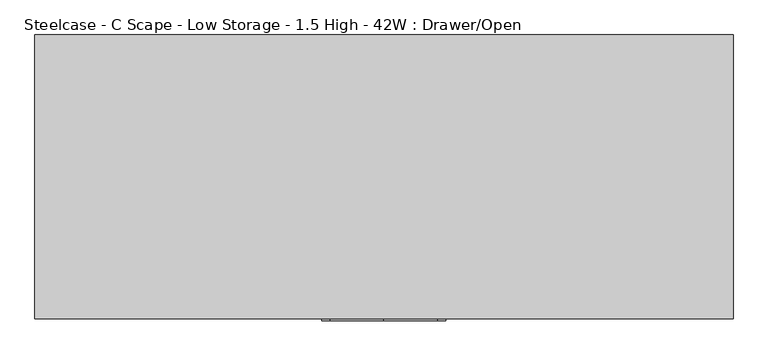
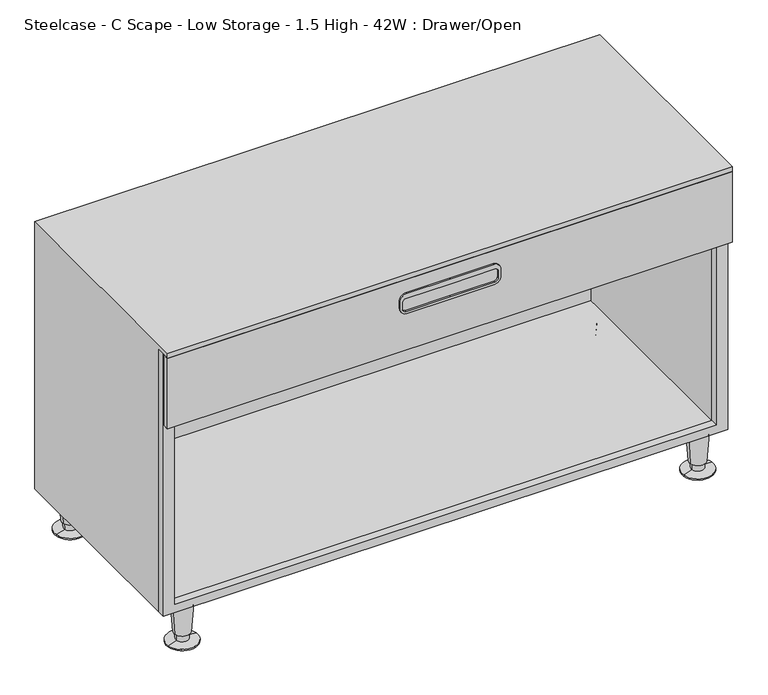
"""IFC4 building model written with IfcOpenShell, lengths in millimetres: furniture geometry, Steelcase - C Scape - Low Storage - 1.5 High - 42W : Drawer/Open."""

from ifc_helpers import new_model, si_unit, point, frame, frame_2d, origin, place, context, project, spatial, polyline, circle_curve, trimmed, segment, composite_curve, outline, extrude, faceted_brep, source, transform, mapped, element, save
from ifc_brep_helpers import plane_surface, cylinder_surface, revolved_surface, advanced_brep


def steelcase_c_scape_low_storage_1_5_high_42w_drawer_open_6d166814(model_context):
    return source(origin(), model_context, "Body", "SolidModel", [
        extrude(outline(polyline([(599.44, 532.2710512), (599.44, 0.0), (76.1999955, 0.0), (76.1999955, 1065.53), (599.44, 1065.53), (599.44, 532.2710512)]), holes=[polyline([(92.7100024, 1043.5617285), (92.7100024, 21.3382324), (582.93, 21.3382324), (582.93, 1043.5617285), (92.7100024, 1043.5617285)])]), frame((0.0, -419.3484735, 0.0), z_axis=(0.0, 1.0, 0.0), x_axis=(0.0, 0.0, 1.0)), (0.0, 0.0, 1.0), 14.9862946),
        extrude(outline(composite_curve([segment(trimmed(circle_curve(frame_2d((560.7050073, 450.2147442)), 12.7), [point((573.4050073, 450.2147442))], [point((560.7050073, 437.5147442))], False, "CARTESIAN"), True, "CONTINUOUS"), segment(polyline([(560.7050073, 437.5147442), (546.1000363, 437.5147442)]), True, "CONTINUOUS"), segment(trimmed(circle_curve(frame_2d((546.1000363, 450.2147442)), 12.7), [point((546.1000363, 437.5147442))], [point((533.4000363, 450.2147442))], False, "CARTESIAN"), True, "CONTINUOUS"), segment(polyline([(533.4000363, 450.2147442), (533.4000363, 532.4475), (533.4000363, 614.6802558)]), True, "CONTINUOUS"), segment(trimmed(circle_curve(frame_2d((546.1000363, 614.6802558)), 12.7), [point((533.4000363, 614.6802558))], [point((546.1000363, 627.3802558))], False, "CARTESIAN"), True, "CONTINUOUS"), segment(polyline([(546.1000363, 627.3802558), (560.7050073, 627.3802558)]), True, "CONTINUOUS"), segment(trimmed(circle_curve(frame_2d((560.7050073, 614.6802558)), 12.7), [point((560.7050073, 627.3802558))], [point((573.4050073, 614.6802558))], False, "CARTESIAN"), True, "CONTINUOUS"), segment(polyline([(573.4050073, 614.6802558), (573.4050073, 532.4475), (573.4050073, 450.2147442)]), True, "CONTINUOUS")], self_intersect=False), holes=[composite_curve([segment(trimmed(circle_curve(frame_2d((557.2760257, 448.6923565)), 6.35), [point((557.2760257, 442.3423565))], [point((563.6260257, 448.6923565))], True, "CARTESIAN"), True, "CONTINUOUS"), segment(polyline([(563.6260257, 448.6923565), (563.6260257, 532.4475), (563.6260257, 616.2026435)]), True, "CONTINUOUS"), segment(trimmed(circle_curve(frame_2d((557.2760257, 616.2026435)), 6.35), [point((563.6260257, 616.2026435))], [point((557.2760257, 622.5526435))], True, "CARTESIAN"), True, "CONTINUOUS"), segment(polyline([(557.2760257, 622.5526435), (544.5760136, 622.5526435)]), True, "CONTINUOUS"), segment(trimmed(circle_curve(frame_2d((544.5760136, 616.2026435)), 6.35), [point((544.5760136, 622.5526435))], [point((538.2260136, 616.2026435))], True, "CARTESIAN"), True, "CONTINUOUS"), segment(polyline([(538.2260136, 616.2026435), (538.2260136, 532.4475), (538.2260136, 448.6923565)]), True, "CONTINUOUS"), segment(trimmed(circle_curve(frame_2d((544.5760136, 448.6923565)), 6.35), [point((538.2260136, 448.6923565))], [point((544.5760136, 442.3423565))], True, "CARTESIAN"), True, "CONTINUOUS"), segment(polyline([(544.5760136, 442.3423565), (557.2760257, 442.3423565)]), True, "CONTINUOUS")], self_intersect=False)]), frame((0.0, -436.118, 0.0), z_axis=(0.0, 1.0, 0.0), x_axis=(0.0, 0.0, 1.0)), (0.0, 0.0, 1.0), 3.048),
        advanced_brep(
        [(1038.2598695, -31.5218435, 76.2), (1000.5981305, -37.2840847, 76.2), (1019.429, -34.4029641, 76.2), (1034.3095214, -32.1262463, 19.05), (1004.5484786, -36.6796819, 19.05), (1031.8799345, -32.4979728, 19.05), (1006.9780655, -36.3079555, 19.05), (1031.191165, -32.6033544, 5.7545598), (1007.666835, -36.2025738, 5.7545598), (1048.5400485, -29.9489775, 2.5119506), (990.3179515, -38.8569507, 2.5119506), (1048.5400485, -29.9489775, 0.0), (990.3179515, -38.8569507, 0.0), (1019.429, -34.4029641, 0.0)],
        [
            (0, 1, circle_curve(frame((1019.429, -34.4029641, 76.2), z_axis=(0.0, 0.0, 1.0), x_axis=(0.0, -1.0, 0.0)), 19.05)),
            (1, 2),
            (2, 0),
            (1, 0, circle_curve(frame((1019.429, -34.4029641, 76.2), z_axis=(0.0, 0.0, 1.0), x_axis=(0.0, -1.0, 0.0)), 19.05)),
            (3, 4, circle_curve(frame((1019.429, -34.4029641, 19.05), z_axis=(0.0, 0.0, 1.0), x_axis=(0.0, -1.0, 0.0)), 15.0536827)),
            (4, 1),
            (0, 3),
            (4, 3, circle_curve(frame((1019.429, -34.4029641, 19.05), z_axis=(0.0, 0.0, 1.0), x_axis=(0.0, -1.0, 0.0)), 15.0536827)),
            (5, 6, circle_curve(frame((1019.429, -34.4029641, 19.05), z_axis=(0.0, 0.0, 1.0), x_axis=(0.0, -1.0, 0.0)), 12.5958232)),
            (6, 4),
            (3, 5),
            (6, 5, circle_curve(frame((1019.429, -34.4029641, 19.05), z_axis=(0.0, 0.0, 1.0), x_axis=(0.0, -1.0, 0.0)), 12.5958232)),
            (7, 8, circle_curve(frame((1019.429, -34.4029641, 5.7545598), z_axis=(0.0, 0.0, 1.0), x_axis=(0.0, -1.0, 0.0)), 11.8990387)),
            (8, 6),
            (5, 7),
            (8, 7, circle_curve(frame((1019.429, -34.4029641, 5.7545598), z_axis=(0.0, 0.0, 1.0), x_axis=(0.0, -1.0, 0.0)), 11.8990387)),
            (9, 10, circle_curve(frame((1019.429, -34.4029641, 2.5119506), z_axis=(0.0, 0.0, 1.0), x_axis=(0.0, -1.0, 0.0)), 29.4498071)),
            (10, 8),
            (7, 9),
            (10, 9, circle_curve(frame((1019.429, -34.4029641, 2.5119506), z_axis=(0.0, 0.0, 1.0), x_axis=(0.0, -1.0, 0.0)), 29.4498071)),
            (11, 12, circle_curve(frame((1019.429, -34.4029641, 0.0), z_axis=(0.0, 0.0, 1.0), x_axis=(0.0, -1.0, 0.0)), 29.4498071)),
            (12, 10),
            (9, 11),
            (12, 11, circle_curve(frame((1019.429, -34.4029641, 0.0), z_axis=(0.0, 0.0, 1.0), x_axis=(0.0, -1.0, 0.0)), 29.4498071)),
            (13, 12),
            (11, 13),
        ],
        [
            plane_surface(frame((1019.429, -34.4029641, 76.2), z_axis=(0.0, 0.0, 1.0), x_axis=(0.0, -1.0, 0.0))),
            revolved_surface(polyline([(1019.429, -53.4529641, 76.2), (1019.429, -49.4566468, 19.05)]), (1019.429, -34.4029641, 25.4), (0.0, 0.0, -1.0)),
            plane_surface(frame((1019.429, -34.4029641, 19.05), z_axis=(0.0, 0.0, -1.0), x_axis=(0.0, -1.0, 0.0))),
            revolved_surface(polyline([(1019.429, -46.9987873, 19.05), (1019.429, -46.3020028, 5.7545598)]), (1019.429, -34.4029641, 25.4), (0.0, 0.0, -1.0)),
            revolved_surface(polyline([(1019.429, -46.3020028, 5.7545598), (1019.429, -63.8527712, 2.5119506)]), (1019.429, -34.4029641, 25.4), (0.0, 0.0, -1.0)),
            cylinder_surface(frame((1019.429, -34.4029641, 25.4), z_axis=(0.0, 0.0, -1.0), x_axis=(0.0, -1.0, 0.0)), 29.4498071),
            plane_surface(frame((1019.429, -34.4029641, 0.0), z_axis=(0.0, 0.0, -1.0), x_axis=(0.0, -1.0, 0.0))),
        ],
        [
            (0, [[1, 2, 3]]),
            (0, [[4, -3, -2]]),
            (1, [[5, 6, -1, 7]]),
            (1, [[8, -7, -4, -6]]),
            (2, [[9, 10, -5, 11]]),
            (2, [[12, -11, -8, -10]]),
            (3, [[13, 14, -9, 15]]),
            (3, [[16, -15, -12, -14]]),
            (4, [[17, 18, -13, 19]]),
            (4, [[20, -19, -16, -18]]),
            (5, [[21, 22, -17, 23]]),
            (5, [[24, -23, -20, -22]]),
            (6, [[25, -21, 26]]),
            (6, [[-26, -24, -25]]),
        ],
    ),
        advanced_brep(
        [(1038.2598695, -397.1702762, 76.2), (1000.5981305, -402.9325174, 76.2), (1019.429, -400.0513968, 76.2), (1034.3095214, -397.774679, 19.05), (1004.5484786, -402.3281146, 19.05), (1031.8799345, -398.1464055, 19.05), (1006.9780655, -401.9563882, 19.05), (1031.191165, -398.2517871, 5.7545598), (1007.666835, -401.8510065, 5.7545598), (1048.5400485, -395.5974102, 2.5119506), (990.3179515, -404.5053834, 2.5119506), (1048.5400485, -395.5974102, 0.0), (990.3179515, -404.5053834, 0.0), (1019.429, -400.0513968, 0.0)],
        [
            (0, 1, circle_curve(frame((1019.429, -400.0513968, 76.2), z_axis=(0.0, 0.0, 1.0), x_axis=(0.0, -1.0, 0.0)), 19.05)),
            (1, 2),
            (2, 0),
            (1, 0, circle_curve(frame((1019.429, -400.0513968, 76.2), z_axis=(0.0, 0.0, 1.0), x_axis=(0.0, -1.0, 0.0)), 19.05)),
            (3, 4, circle_curve(frame((1019.429, -400.0513968, 19.05), z_axis=(0.0, 0.0, 1.0), x_axis=(0.0, -1.0, 0.0)), 15.0536827)),
            (4, 1),
            (0, 3),
            (4, 3, circle_curve(frame((1019.429, -400.0513968, 19.05), z_axis=(0.0, 0.0, 1.0), x_axis=(0.0, -1.0, 0.0)), 15.0536827)),
            (5, 6, circle_curve(frame((1019.429, -400.0513968, 19.05), z_axis=(0.0, 0.0, 1.0), x_axis=(0.0, -1.0, 0.0)), 12.5958232)),
            (6, 4),
            (3, 5),
            (6, 5, circle_curve(frame((1019.429, -400.0513968, 19.05), z_axis=(0.0, 0.0, 1.0), x_axis=(0.0, -1.0, 0.0)), 12.5958232)),
            (7, 8, circle_curve(frame((1019.429, -400.0513968, 5.7545598), z_axis=(0.0, 0.0, 1.0), x_axis=(0.0, -1.0, 0.0)), 11.8990387)),
            (8, 6),
            (5, 7),
            (8, 7, circle_curve(frame((1019.429, -400.0513968, 5.7545598), z_axis=(0.0, 0.0, 1.0), x_axis=(0.0, -1.0, 0.0)), 11.8990387)),
            (9, 10, circle_curve(frame((1019.429, -400.0513968, 2.5119506), z_axis=(0.0, 0.0, 1.0), x_axis=(0.0, -1.0, 0.0)), 29.4498071)),
            (10, 8),
            (7, 9),
            (10, 9, circle_curve(frame((1019.429, -400.0513968, 2.5119506), z_axis=(0.0, 0.0, 1.0), x_axis=(0.0, -1.0, 0.0)), 29.4498071)),
            (11, 12, circle_curve(frame((1019.429, -400.0513968, 0.0), z_axis=(0.0, 0.0, 1.0), x_axis=(0.0, -1.0, 0.0)), 29.4498071)),
            (12, 10),
            (9, 11),
            (12, 11, circle_curve(frame((1019.429, -400.0513968, 0.0), z_axis=(0.0, 0.0, 1.0), x_axis=(0.0, -1.0, 0.0)), 29.4498071)),
            (13, 12),
            (11, 13),
        ],
        [
            plane_surface(frame((1019.429, -400.0513968, 76.2), z_axis=(0.0, 0.0, 1.0), x_axis=(0.0, -1.0, 0.0))),
            revolved_surface(polyline([(1019.429, -419.1013968, 76.2), (1019.429, -415.1050795, 19.05)]), (1019.429, -400.0513968, 25.4), (0.0, 0.0, -1.0)),
            plane_surface(frame((1019.429, -400.0513968, 19.05), z_axis=(0.0, 0.0, -1.0), x_axis=(0.0, -1.0, 0.0))),
            revolved_surface(polyline([(1019.429, -412.64722, 19.05), (1019.429, -411.9504355, 5.7545598)]), (1019.429, -400.0513968, 25.4), (0.0, 0.0, -1.0)),
            revolved_surface(polyline([(1019.429, -411.9504355, 5.7545598), (1019.429, -429.5012039, 2.5119506)]), (1019.429, -400.0513968, 25.4), (0.0, 0.0, -1.0)),
            cylinder_surface(frame((1019.429, -400.0513968, 25.4), z_axis=(0.0, 0.0, -1.0), x_axis=(0.0, -1.0, 0.0)), 29.4498071),
            plane_surface(frame((1019.429, -400.0513968, 0.0), z_axis=(0.0, 0.0, -1.0), x_axis=(0.0, -1.0, 0.0))),
        ],
        [
            (0, [[1, 2, 3]]),
            (0, [[4, -3, -2]]),
            (1, [[5, 6, -1, 7]]),
            (1, [[8, -7, -4, -6]]),
            (2, [[9, 10, -5, 11]]),
            (2, [[12, -11, -8, -10]]),
            (3, [[13, 14, -9, 15]]),
            (3, [[16, -15, -12, -14]]),
            (4, [[17, 18, -13, 19]]),
            (4, [[20, -19, -16, -18]]),
            (5, [[21, 22, -17, 23]]),
            (5, [[24, -23, -20, -22]]),
            (6, [[25, -21, 26]]),
            (6, [[-26, -24, -25]]),
        ],
    ),
        advanced_brep(
        [(65.5422821, -397.1702762, 76.2), (27.8805432, -402.9325174, 76.2), (46.7114126, -400.0513968, 76.2), (61.5919341, -397.774679, 19.05), (31.8308912, -402.3281146, 19.05), (59.1623471, -398.1464055, 19.05), (34.2604781, -401.9563882, 19.05), (58.4735776, -398.2517871, 5.7545598), (34.9492476, -401.8510065, 5.7545598), (75.8224611, -395.5974102, 2.5119506), (17.6003641, -404.5053834, 2.5119506), (75.8224611, -395.5974102, 0.0), (17.6003641, -404.5053834, 0.0), (46.7114126, -400.0513968, 0.0)],
        [
            (0, 1, circle_curve(frame((46.7114126, -400.0513968, 76.2), z_axis=(0.0, 0.0, 1.0), x_axis=(0.0, -1.0, 0.0)), 19.05)),
            (1, 2),
            (2, 0),
            (1, 0, circle_curve(frame((46.7114126, -400.0513968, 76.2), z_axis=(0.0, 0.0, 1.0), x_axis=(0.0, -1.0, 0.0)), 19.05)),
            (3, 4, circle_curve(frame((46.7114126, -400.0513968, 19.05), z_axis=(0.0, 0.0, 1.0), x_axis=(0.0, -1.0, 0.0)), 15.0536827)),
            (4, 1),
            (0, 3),
            (4, 3, circle_curve(frame((46.7114126, -400.0513968, 19.05), z_axis=(0.0, 0.0, 1.0), x_axis=(0.0, -1.0, 0.0)), 15.0536827)),
            (5, 6, circle_curve(frame((46.7114126, -400.0513968, 19.05), z_axis=(0.0, 0.0, 1.0), x_axis=(0.0, -1.0, 0.0)), 12.5958232)),
            (6, 4),
            (3, 5),
            (6, 5, circle_curve(frame((46.7114126, -400.0513968, 19.05), z_axis=(0.0, 0.0, 1.0), x_axis=(0.0, -1.0, 0.0)), 12.5958232)),
            (7, 8, circle_curve(frame((46.7114126, -400.0513968, 5.7545598), z_axis=(0.0, 0.0, 1.0), x_axis=(0.0, -1.0, 0.0)), 11.8990387)),
            (8, 6),
            (5, 7),
            (8, 7, circle_curve(frame((46.7114126, -400.0513968, 5.7545598), z_axis=(0.0, 0.0, 1.0), x_axis=(0.0, -1.0, 0.0)), 11.8990387)),
            (9, 10, circle_curve(frame((46.7114126, -400.0513968, 2.5119506), z_axis=(0.0, 0.0, 1.0), x_axis=(0.0, -1.0, 0.0)), 29.4498071)),
            (10, 8),
            (7, 9),
            (10, 9, circle_curve(frame((46.7114126, -400.0513968, 2.5119506), z_axis=(0.0, 0.0, 1.0), x_axis=(0.0, -1.0, 0.0)), 29.4498071)),
            (11, 12, circle_curve(frame((46.7114126, -400.0513968, 0.0), z_axis=(0.0, 0.0, 1.0), x_axis=(0.0, -1.0, 0.0)), 29.4498071)),
            (12, 10),
            (9, 11),
            (12, 11, circle_curve(frame((46.7114126, -400.0513968, 0.0), z_axis=(0.0, 0.0, 1.0), x_axis=(0.0, -1.0, 0.0)), 29.4498071)),
            (13, 12),
            (11, 13),
        ],
        [
            plane_surface(frame((46.7114126, -400.0513968, 76.2), z_axis=(0.0, 0.0, 1.0), x_axis=(0.0, -1.0, 0.0))),
            revolved_surface(polyline([(46.7114126, -419.1013968, 76.2), (46.7114126, -415.1050795, 19.05)]), (46.7114126, -400.0513968, 25.4), (0.0, 0.0, -1.0)),
            plane_surface(frame((46.7114126, -400.0513968, 19.05), z_axis=(0.0, 0.0, -1.0), x_axis=(0.0, -1.0, 0.0))),
            revolved_surface(polyline([(46.7114126, -412.64722, 19.05), (46.7114126, -411.9504355, 5.7545598)]), (46.7114126, -400.0513968, 25.4), (0.0, 0.0, -1.0)),
            revolved_surface(polyline([(46.7114126, -411.9504355, 5.7545598), (46.7114126, -429.5012039, 2.5119506)]), (46.7114126, -400.0513968, 25.4), (0.0, 0.0, -1.0)),
            cylinder_surface(frame((46.7114126, -400.0513968, 25.4), z_axis=(0.0, 0.0, -1.0), x_axis=(0.0, -1.0, 0.0)), 29.4498071),
            plane_surface(frame((46.7114126, -400.0513968, 0.0), z_axis=(0.0, 0.0, -1.0), x_axis=(0.0, -1.0, 0.0))),
        ],
        [
            (0, [[1, 2, 3]]),
            (0, [[4, -3, -2]]),
            (1, [[5, 6, -1, 7]]),
            (1, [[8, -7, -4, -6]]),
            (2, [[9, 10, -5, 11]]),
            (2, [[12, -11, -8, -10]]),
            (3, [[13, 14, -9, 15]]),
            (3, [[16, -15, -12, -14]]),
            (4, [[17, 18, -13, 19]]),
            (4, [[20, -19, -16, -18]]),
            (5, [[21, 22, -17, 23]]),
            (5, [[24, -23, -20, -22]]),
            (6, [[25, -21, 26]]),
            (6, [[-26, -24, -25]]),
        ],
    ),
        advanced_brep(
        [(65.5422821, -31.5218435, 76.2), (27.8805432, -37.2840847, 76.2), (46.7114126, -34.4029641, 76.2), (61.5919341, -32.1262463, 19.05), (31.8308912, -36.6796819, 19.05), (59.1623471, -32.4979728, 19.05), (34.2604781, -36.3079555, 19.05), (58.4735776, -32.6033544, 5.7545598), (34.9492476, -36.2025738, 5.7545598), (75.8224611, -29.9489775, 2.5119506), (17.6003641, -38.8569507, 2.5119506), (75.8224611, -29.9489775, 0.0), (17.6003641, -38.8569507, 0.0), (46.7114126, -34.4029641, 0.0)],
        [
            (0, 1, circle_curve(frame((46.7114126, -34.4029641, 76.2), z_axis=(0.0, 0.0, 1.0), x_axis=(0.0, -1.0, 0.0)), 19.05)),
            (1, 2),
            (2, 0),
            (1, 0, circle_curve(frame((46.7114126, -34.4029641, 76.2), z_axis=(0.0, 0.0, 1.0), x_axis=(0.0, -1.0, 0.0)), 19.05)),
            (3, 4, circle_curve(frame((46.7114126, -34.4029641, 19.05), z_axis=(0.0, 0.0, 1.0), x_axis=(0.0, -1.0, 0.0)), 15.0536827)),
            (4, 1),
            (0, 3),
            (4, 3, circle_curve(frame((46.7114126, -34.4029641, 19.05), z_axis=(0.0, 0.0, 1.0), x_axis=(0.0, -1.0, 0.0)), 15.0536827)),
            (5, 6, circle_curve(frame((46.7114126, -34.4029641, 19.05), z_axis=(0.0, 0.0, 1.0), x_axis=(0.0, -1.0, 0.0)), 12.5958232)),
            (6, 4),
            (3, 5),
            (6, 5, circle_curve(frame((46.7114126, -34.4029641, 19.05), z_axis=(0.0, 0.0, 1.0), x_axis=(0.0, -1.0, 0.0)), 12.5958232)),
            (7, 8, circle_curve(frame((46.7114126, -34.4029641, 5.7545598), z_axis=(0.0, 0.0, 1.0), x_axis=(0.0, -1.0, 0.0)), 11.8990387)),
            (8, 6),
            (5, 7),
            (8, 7, circle_curve(frame((46.7114126, -34.4029641, 5.7545598), z_axis=(0.0, 0.0, 1.0), x_axis=(0.0, -1.0, 0.0)), 11.8990387)),
            (9, 10, circle_curve(frame((46.7114126, -34.4029641, 2.5119506), z_axis=(0.0, 0.0, 1.0), x_axis=(0.0, -1.0, 0.0)), 29.4498071)),
            (10, 8),
            (7, 9),
            (10, 9, circle_curve(frame((46.7114126, -34.4029641, 2.5119506), z_axis=(0.0, 0.0, 1.0), x_axis=(0.0, -1.0, 0.0)), 29.4498071)),
            (11, 12, circle_curve(frame((46.7114126, -34.4029641, 0.0), z_axis=(0.0, 0.0, 1.0), x_axis=(0.0, -1.0, 0.0)), 29.4498071)),
            (12, 10),
            (9, 11),
            (12, 11, circle_curve(frame((46.7114126, -34.4029641, 0.0), z_axis=(0.0, 0.0, 1.0), x_axis=(0.0, -1.0, 0.0)), 29.4498071)),
            (13, 12),
            (11, 13),
        ],
        [
            plane_surface(frame((46.7114126, -34.4029641, 76.2), z_axis=(0.0, 0.0, 1.0), x_axis=(0.0, -1.0, 0.0))),
            revolved_surface(polyline([(46.7114126, -53.4529641, 76.2), (46.7114126, -49.4566468, 19.05)]), (46.7114126, -34.4029641, 25.4), (0.0, 0.0, -1.0)),
            plane_surface(frame((46.7114126, -34.4029641, 19.05), z_axis=(0.0, 0.0, -1.0), x_axis=(0.0, -1.0, 0.0))),
            revolved_surface(polyline([(46.7114126, -46.9987873, 19.05), (46.7114126, -46.3020028, 5.7545598)]), (46.7114126, -34.4029641, 25.4), (0.0, 0.0, -1.0)),
            revolved_surface(polyline([(46.7114126, -46.3020028, 5.7545598), (46.7114126, -63.8527712, 2.5119506)]), (46.7114126, -34.4029641, 25.4), (0.0, 0.0, -1.0)),
            cylinder_surface(frame((46.7114126, -34.4029641, 25.4), z_axis=(0.0, 0.0, -1.0), x_axis=(0.0, -1.0, 0.0)), 29.4498071),
            plane_surface(frame((46.7114126, -34.4029641, 0.0), z_axis=(0.0, 0.0, -1.0), x_axis=(0.0, -1.0, 0.0))),
        ],
        [
            (0, [[1, 2, 3]]),
            (0, [[4, -3, -2]]),
            (1, [[5, 6, -1, 7]]),
            (1, [[8, -7, -4, -6]]),
            (2, [[9, 10, -5, 11]]),
            (2, [[12, -11, -8, -10]]),
            (3, [[13, 14, -9, 15]]),
            (3, [[16, -15, -12, -14]]),
            (4, [[17, 18, -13, 19]]),
            (4, [[20, -19, -16, -18]]),
            (5, [[21, 22, -17, 23]]),
            (5, [[24, -23, -20, -22]]),
            (6, [[25, -21, 26]]),
            (6, [[-26, -24, -25]]),
        ],
    ),
        extrude(outline(polyline([(1065.53, -422.5233329), (1065.53, -433.07), (0.0, -433.07), (0.0, -422.5233329), (1065.53, -422.5233329)])), frame((0.0, 0.0, 458.7875121), z_axis=(0.0, 0.0, 1.0), x_axis=(1.0, 0.0, 0.0)), (0.0, 0.0, 1.0), 140.6524879),
        faceted_brep([(0.0, 0.0, 609.6), (1065.53, 0.0, 609.6), (1065.53, 0.0, 458.7875121), (1065.53, 0.0, 435.8005068), (1065.53, 0.0, 76.2), (0.0, 0.0, 76.2), (0.0, 0.0, 435.8005068), (0.0, 0.0, 458.7875121), (0.0, -404.362179, 76.2), (0.0, -404.362179, 599.44), (0.0, -433.07, 599.44), (0.0, -433.07, 609.6), (1065.53, -404.362179, 76.2), (1065.53, -404.362179, 599.44), (1043.5617285, -404.362179, 599.44), (1043.5617285, -404.362179, 458.7875121), (21.3382324, -404.362179, 458.7875121), (21.3382324, -404.362179, 599.44), (1043.5617285, -404.362179, 435.8005068), (1043.5617285, -404.362179, 92.7100024), (21.3382324, -404.362179, 92.7100024), (21.3382324, -404.362179, 435.8005068), (21.3382324, -9.525, 599.44), (21.3382324, -9.525, 458.7875121), (21.3382324, -9.525, 435.8005068), (21.3382324, -9.525, 92.7100024), (1043.5617285, -9.525, 599.44), (1043.5617285, -9.525, 458.7875121), (1043.5617285, -9.525, 435.8005068), (1043.5617285, -9.525, 92.7100024), (1065.53, -433.07, 609.6), (1065.53, -433.07, 599.44)], [[[0, 1, 2, 3, 4, 5, 6, 7]], [[5, 8, 9, 10, 11, 0, 7, 6]], [[8, 12, 13, 14, 15, 16, 17, 9], [18, 19, 20, 21]], [[22, 17, 16, 23]], [[24, 21, 20, 25]], [[26, 22, 23, 27]], [[28, 24, 25, 29]], [[14, 26, 27, 15]], [[18, 28, 29, 19]], [[12, 4, 3, 2, 1, 30, 31, 13]], [[1, 0, 11, 30]], [[31, 10, 9, 17, 22, 26, 14, 13]], [[30, 11, 10, 31]], [[16, 15, 27, 23]], [[18, 21, 24, 28]], [[20, 19, 29, 25]], [[4, 12, 8, 5]]]),
    ])


if __name__ == "__main__":
    model = new_model("IFC4")
    model_context = context("Model", 3, world=origin())
    ifc_project = project(units=[si_unit("LENGTHUNIT", "METRE", prefix="MILLI")], contexts=[model_context])
    site = spatial("IfcSite", under=ifc_project)
    building = spatial("IfcBuilding", under=site)
    placement = place(None, origin())
    steelcase_c_scape_low_storage_1_5_high_42w_drawer_open_shape = steelcase_c_scape_low_storage_1_5_high_42w_drawer_open_6d166814(model_context)
    element("IfcFurniture", 1, ObjectType="Steelcase - C Scape - Low Storage - 1.5 High - 42W : Drawer/Open", at=placement, inside=building, context=model_context, shape_type="MappedRepresentation", body=[
        mapped(steelcase_c_scape_low_storage_1_5_high_42w_drawer_open_shape, transform((0.0, 0.0, 0.0), x_axis=(1.0, 0.0, 0.0), y_axis=(0.0, 1.0, 0.0), z_axis=(0.0, 0.0, 1.0))),
    ])
    save(model, "model.ifc")
